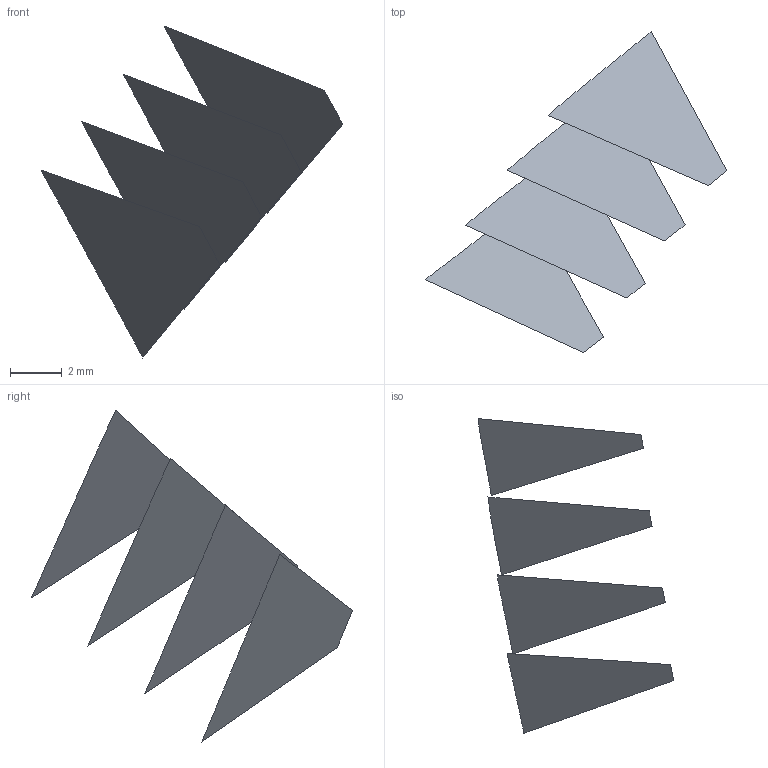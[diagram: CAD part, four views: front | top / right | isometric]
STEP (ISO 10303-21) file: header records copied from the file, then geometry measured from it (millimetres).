
FILE_DESCRIPTION(('FreeCAD Model'),'2;1');
FILE_NAME('Open CASCADE Shape Model','2022-05-22T07:50:31',('FreeCAD'),( 'FreeCAD'),'Open CASCADE STEP processor 7.5','FreeCAD','Unknown');
FILE_SCHEMA(('AUTOMOTIVE_DESIGN { 1 0 10303 214 1 1 1 1 }'));
Length unit declared in the file: millimetre
Products named in the file (5): Open CASCADE STEP translator 7.5 4; Open CASCADE STEP translator 7.5 4.1; Open CASCADE STEP translator 7.5 4.2; Open CASCADE STEP translator 7.5 4.3; Open CASCADE STEP translator 7.5 4.4
Assembly tree (4 placements, depth 2):
  Open CASCADE STEP translator 7.5 4
    Open CASCADE STEP translator 7.5 4.1
    Open CASCADE STEP translator 7.5 4.2
    Open CASCADE STEP translator 7.5 4.3
    Open CASCADE STEP translator 7.5 4.4
Bounding box: 11.62 x 12.38 x 12.79 mm (x, y, z)
Surface area: 128.5 mm2 (no closed solid volume)
Topology: 0 solids, 4 shells, 4 faces, 71 edges, 71 vertices
Faces by surface type: bspline 4
Entity records: 1051 total; most frequent: CARTESIAN_POINT 376, B_SPLINE_CURVE_WITH_KNOTS 142, ORIENTED_EDGE 71, EDGE_CURVE 71, VERTEX_POINT 71, SURFACE_CURVE 71, PCURVE 71, DEFINITIONAL_REPRESENTATION 71
